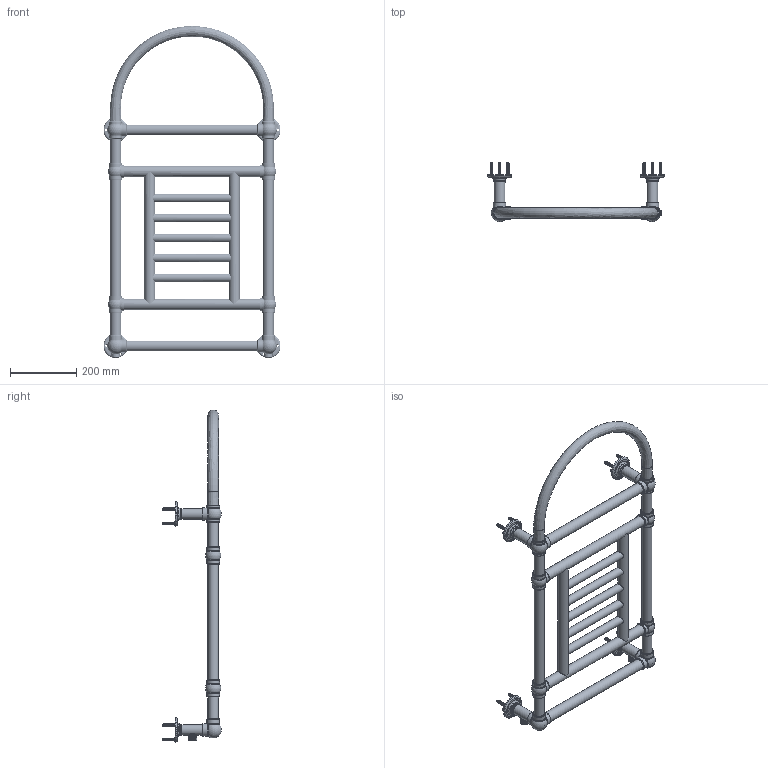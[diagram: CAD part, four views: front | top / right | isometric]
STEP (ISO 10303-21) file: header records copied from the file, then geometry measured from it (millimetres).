
FILE_DESCRIPTION(/* description */ (''),/* implementation_level */ '2;1');
FILE_NAME(/* name */ 'GR 1000x535x140.stp',/* time_stamp */ '2023-12-12T12:46:20+08:00',/* author */ (''),/* organization */ (''),/* preprocessor_version */ 'ST-DEVELOPER v18.101',/* originating_system */ 'SIEMENS PLM Software NX 2007',/* authorisation */ '');
FILE_SCHEMA (('AUTOMOTIVE_DESIGN { 1 0 10303 214 3 1 1 1 }'));
Products named in the file (1): GR 1000x535x140_objects
Bounding box: 533 x 177.75 x 999.5 mm (x, y, z)
Volume: 4799521.7 mm3; surface area: 688685.3 mm2
Topology: 25 solids, 32 shells, 1420 faces, 3655 edges, 2343 vertices
Faces by surface type: plane 728, bspline 259, cylinder 225, cone 94, torus 86, sphere 28
Full cylindrical faces by diameter (mm): 5 x12, 5.2 x12, 8 x12, 9 x12, 10 x12, 12 x2, 19 x1, 25 x7, 29 x2, 31.5 x2, 32 x16, 34.5 x4, 35.8 x4, 38 x26, 68 x4, 73 x4
Entity records: 134704 total; most frequent: CARTESIAN_POINT 104821, ORIENTED_EDGE 6172, DIRECTION 5352, EDGE_CURVE 3086, VERTEX_POINT 2101, AXIS2_PLACEMENT_3D 2095, EDGE_LOOP 1873, ADVANCED_FACE 1420
